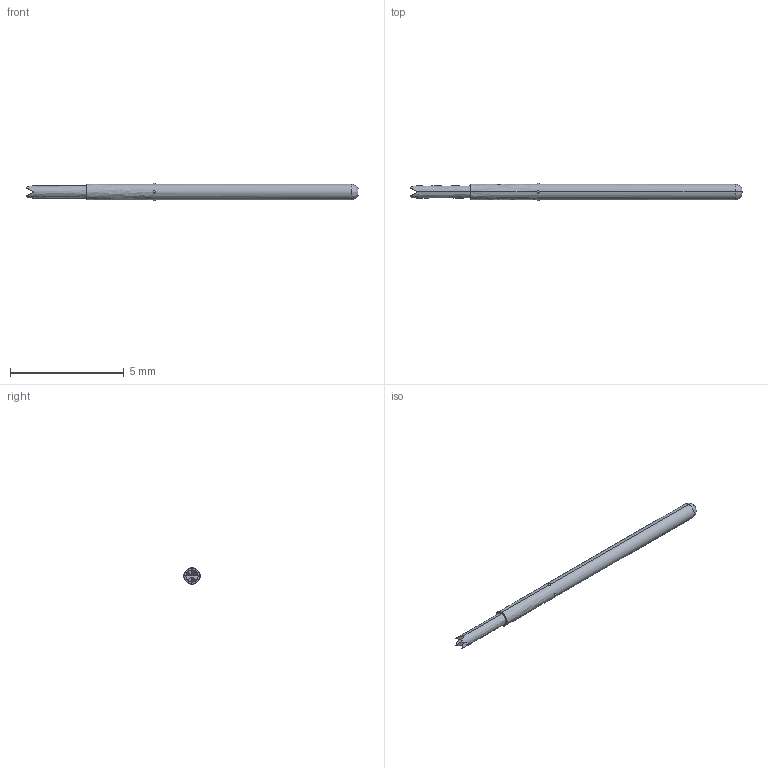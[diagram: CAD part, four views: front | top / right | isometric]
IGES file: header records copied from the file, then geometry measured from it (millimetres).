
Start section: SolidWorks IGES file using analytic representation for surfaces
Global section: file name: O:\PYLON\IGES FILES\P2662B\P2662B-1Q1S.IGS; native system: SolidWorks 2015; preprocessor: SolidWorks 2015; author: kgolden; date: 171019.093208; units: inch
Bounding box: 14.57 x 0.79 x 0.79 mm (x, y, z)
Surface area: 33.1 mm2 (no closed solid volume)
Topology: 0 solids, 0 shells, 26 faces, 222 edges, 206 vertices
Faces by surface type: revolution 14, bspline 12
